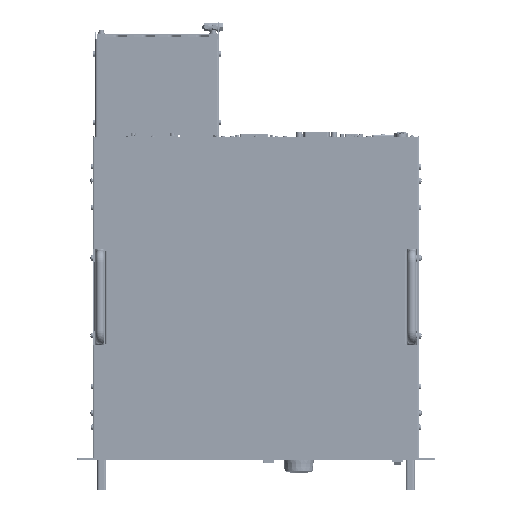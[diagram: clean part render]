
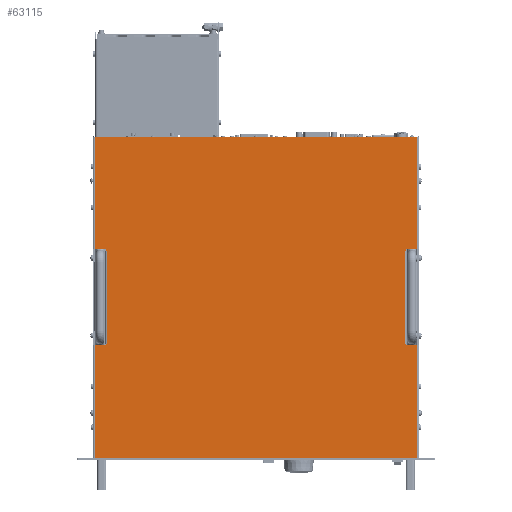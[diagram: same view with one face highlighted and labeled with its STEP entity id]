
A CAD part, top view. The second image highlights one B-rep face of the part: STEP entity #63115.
In plain terms, the highlighted planar face has unit normal (0, 0, 1).
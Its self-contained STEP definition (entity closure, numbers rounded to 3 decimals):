
#63115=ADVANCED_FACE('',(#127443),#127444,.F.);
#127443=FACE_OUTER_BOUND('',#226145,.T.);
#127444=PLANE('',#226146);
#226145=EDGE_LOOP('',(#404306,#404307,#404308,#404309,#404310,#404311,#404312,#404313,#404314,#404315,#404316,#404317,#404318,#404319,#404320,#404321,#404322,#404323,#404324,#404325));
#226146=AXIS2_PLACEMENT_3D('',#404326,#404327,#404328);
#404306=ORIENTED_EDGE('',*,*,#479066,.T.);
#404307=ORIENTED_EDGE('',*,*,#479086,.F.);
#404308=ORIENTED_EDGE('',*,*,#479087,.F.);
#404309=ORIENTED_EDGE('',*,*,#478730,.F.);
#404310=ORIENTED_EDGE('',*,*,#479052,.F.);
#404311=ORIENTED_EDGE('',*,*,#478715,.F.);
#404312=ORIENTED_EDGE('',*,*,#479041,.F.);
#404313=ORIENTED_EDGE('',*,*,#479088,.F.);
#404314=ORIENTED_EDGE('',*,*,#479084,.T.);
#404315=ORIENTED_EDGE('',*,*,#479079,.F.);
#404316=ORIENTED_EDGE('',*,*,#479076,.T.);
#404317=ORIENTED_EDGE('',*,*,#479089,.F.);
#404318=ORIENTED_EDGE('',*,*,#479017,.F.);
#404319=ORIENTED_EDGE('',*,*,#478705,.F.);
#404320=ORIENTED_EDGE('',*,*,#479006,.F.);
#404321=ORIENTED_EDGE('',*,*,#478725,.F.);
#404322=ORIENTED_EDGE('',*,*,#479090,.F.);
#404323=ORIENTED_EDGE('',*,*,#479091,.F.);
#404324=ORIENTED_EDGE('',*,*,#479063,.T.);
#404325=ORIENTED_EDGE('',*,*,#479071,.T.);
#404326=CARTESIAN_POINT('',(239.8,220.125,86.465));
#404327=DIRECTION('',(0.,0.,-1.0));
#404328=DIRECTION('',(1.0,0.,0.));
#478705=EDGE_CURVE('',#581281,#581283,#581284,.T.);
#478715=EDGE_CURVE('',#581299,#581301,#581302,.T.);
#478725=EDGE_CURVE('',#581317,#581319,#581320,.T.);
#478730=EDGE_CURVE('',#581326,#581328,#581329,.T.);
#479006=EDGE_CURVE('',#581319,#581281,#581759,.T.);
#479017=EDGE_CURVE('',#581283,#581774,#581775,.T.);
#479041=EDGE_CURVE('',#581807,#581299,#581809,.T.);
#479052=EDGE_CURVE('',#581301,#581326,#581824,.T.);
#479063=EDGE_CURVE('',#581835,#581838,#581840,.T.);
#479066=EDGE_CURVE('',#581845,#581842,#581846,.T.);
#479071=EDGE_CURVE('',#581838,#581845,#581851,.T.);
#479076=EDGE_CURVE('',#581857,#581855,#581858,.T.);
#479079=EDGE_CURVE('',#581857,#581861,#581862,.T.);
#479084=EDGE_CURVE('',#581867,#581861,#581869,.T.);
#479086=EDGE_CURVE('',#581871,#581842,#581872,.T.);
#479087=EDGE_CURVE('',#581328,#581871,#581873,.T.);
#479088=EDGE_CURVE('',#581867,#581807,#581874,.T.);
#479089=EDGE_CURVE('',#581774,#581855,#581875,.T.);
#479090=EDGE_CURVE('',#581876,#581317,#581877,.T.);
#479091=EDGE_CURVE('',#581835,#581876,#581878,.T.);
#581281=VERTEX_POINT('',#728267);
#581283=VERTEX_POINT('',#728269);
#581284=LINE('',#728270,#728271);
#581299=VERTEX_POINT('',#728289);
#581301=VERTEX_POINT('',#728291);
#581302=LINE('',#728292,#728293);
#581317=VERTEX_POINT('',#728311);
#581319=VERTEX_POINT('',#728313);
#581320=LINE('',#728314,#728315);
#581326=VERTEX_POINT('',#728322);
#581328=VERTEX_POINT('',#728324);
#581329=LINE('',#728325,#728326);
#581759=LINE('',#728877,#728878);
#581774=VERTEX_POINT('',#728898);
#581775=LINE('',#728899,#728900);
#581807=VERTEX_POINT('',#728946);
#581809=LINE('',#728949,#728950);
#581824=LINE('',#728970,#728971);
#581835=VERTEX_POINT('',#728986);
#581838=VERTEX_POINT('',#728990);
#581840=LINE('',#728992,#728993);
#581842=VERTEX_POINT('',#728995);
#581845=VERTEX_POINT('',#728999);
#581846=LINE('',#729000,#729001);
#581851=LINE('',#729006,#729007);
#581855=VERTEX_POINT('',#729012);
#581857=VERTEX_POINT('',#729015);
#581858=LINE('',#729016,#729017);
#581861=VERTEX_POINT('',#729020);
#581862=LINE('',#729021,#729022);
#581867=VERTEX_POINT('',#729027);
#581869=LINE('',#729030,#729031);
#581871=VERTEX_POINT('',#729033);
#581872=LINE('',#729034,#729035);
#581873=LINE('',#729036,#729037);
#581874=LINE('',#729038,#729039);
#581875=LINE('',#729040,#729041);
#581876=VERTEX_POINT('',#729042);
#581877=LINE('',#729043,#729044);
#581878=LINE('',#729045,#729046);
#728267=CARTESIAN_POINT('',(22.123,3.5,86.465));
#728269=CARTESIAN_POINT('',(22.123,155.5,86.465));
#728270=CARTESIAN_POINT('',(22.123,149.813,86.465));
#728271=VECTOR('',#813192,1.0);
#728289=CARTESIAN_POINT('',(22.123,284.75,86.465));
#728291=CARTESIAN_POINT('',(22.123,436.75,86.465));
#728292=CARTESIAN_POINT('',(22.123,290.438,86.465));
#728293=VECTOR('',#813208,1.0);
#728311=CARTESIAN_POINT('',(457.477,155.5,86.465));
#728313=CARTESIAN_POINT('',(457.477,3.5,86.465));
#728314=CARTESIAN_POINT('',(457.477,149.813,86.465));
#728315=VECTOR('',#813224,1.0);
#728322=CARTESIAN_POINT('',(457.477,436.75,86.465));
#728324=CARTESIAN_POINT('',(457.477,284.75,86.465));
#728325=CARTESIAN_POINT('',(457.477,290.438,86.465));
#728326=VECTOR('',#813232,1.0);
#728877=CARTESIAN_POINT('',(460.227,3.5,86.465));
#728878=VECTOR('',#813618,1.0);
#728898=CARTESIAN_POINT('',(37.373,155.5,86.465));
#728899=CARTESIAN_POINT('',(19.373,155.5,86.465));
#728900=VECTOR('',#813636,1.0);
#728946=CARTESIAN_POINT('',(37.373,284.75,86.465));
#728949=CARTESIAN_POINT('',(37.373,284.75,86.465));
#728950=VECTOR('',#813664,1.0);
#728970=CARTESIAN_POINT('',(19.373,436.75,86.465));
#728971=VECTOR('',#813682,1.0);
#728986=CARTESIAN_POINT('',(442.227,157.5,86.465));
#728990=CARTESIAN_POINT('',(440.477,157.5,86.465));
#728992=CARTESIAN_POINT('',(341.093,157.5,86.465));
#728993=VECTOR('',#813694,1.0);
#728995=CARTESIAN_POINT('',(442.227,282.75,86.465));
#728999=CARTESIAN_POINT('',(440.477,282.75,86.465));
#729000=CARTESIAN_POINT('',(341.093,282.75,86.465));
#729001=VECTOR('',#813696,1.0);
#729006=CARTESIAN_POINT('',(440.477,220.125,86.465));
#729007=VECTOR('',#813706,1.0);
#729012=CARTESIAN_POINT('',(37.373,157.5,86.465));
#729015=CARTESIAN_POINT('',(39.123,157.5,86.465));
#729016=CARTESIAN_POINT('',(138.507,157.5,86.465));
#729017=VECTOR('',#813709,1.0);
#729020=CARTESIAN_POINT('',(39.123,282.75,86.465));
#729021=CARTESIAN_POINT('',(39.123,220.125,86.465));
#729022=VECTOR('',#813713,1.0);
#729027=CARTESIAN_POINT('',(37.373,282.75,86.465));
#729030=CARTESIAN_POINT('',(138.507,282.75,86.465));
#729031=VECTOR('',#813721,1.0);
#729033=CARTESIAN_POINT('',(442.227,284.75,86.465));
#729034=CARTESIAN_POINT('',(442.227,284.75,86.465));
#729035=VECTOR('',#813722,1.0);
#729036=CARTESIAN_POINT('',(460.227,284.75,86.465));
#729037=VECTOR('',#813723,1.0);
#729038=CARTESIAN_POINT('',(37.373,282.75,86.465));
#729039=VECTOR('',#813724,1.0);
#729040=CARTESIAN_POINT('',(37.373,155.5,86.465));
#729041=VECTOR('',#813725,1.0);
#729042=CARTESIAN_POINT('',(442.227,155.5,86.465));
#729043=CARTESIAN_POINT('',(442.227,155.5,86.465));
#729044=VECTOR('',#813726,1.0);
#729045=CARTESIAN_POINT('',(442.227,157.5,86.465));
#729046=VECTOR('',#813727,1.0);
#813192=DIRECTION('',(0.0,1.0,0.));
#813208=DIRECTION('',(0.0,1.0,0.));
#813224=DIRECTION('',(0.0,-1.0,0.));
#813232=DIRECTION('',(0.0,-1.0,0.));
#813618=DIRECTION('',(-1.0,0.0,0.));
#813636=DIRECTION('',(1.0,0.0,0.0));
#813664=DIRECTION('',(-1.0,0.0,0.0));
#813682=DIRECTION('',(1.0,0.0,0.0));
#813694=DIRECTION('',(-1.0,0.0,0.0));
#813696=DIRECTION('',(1.0,0.0,0.0));
#813706=DIRECTION('',(0.0,1.0,0.));
#813709=DIRECTION('',(-1.0,0.0,0.0));
#813713=DIRECTION('',(0.0,1.0,0.));
#813721=DIRECTION('',(1.0,0.0,0.0));
#813722=DIRECTION('',(0.0,-1.0,0.));
#813723=DIRECTION('',(-1.0,0.0,0.0));
#813724=DIRECTION('',(0.0,1.0,0.));
#813725=DIRECTION('',(0.0,1.0,0.));
#813726=DIRECTION('',(1.0,0.0,0.0));
#813727=DIRECTION('',(0.0,-1.0,0.));
